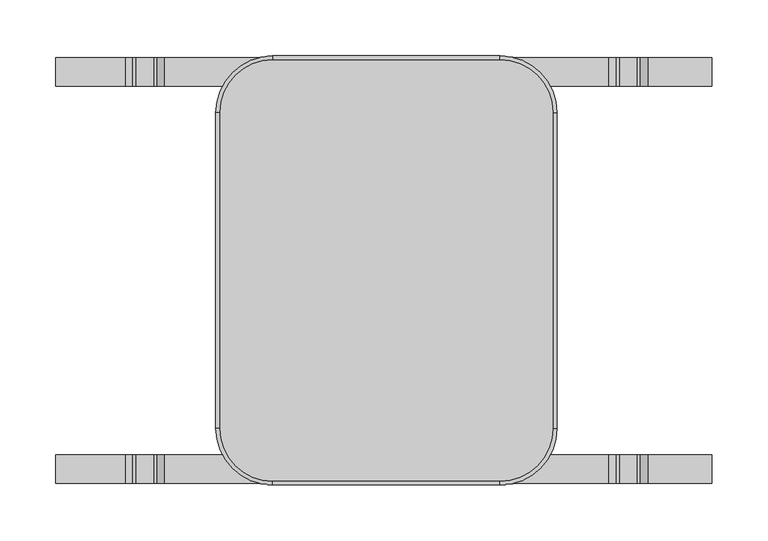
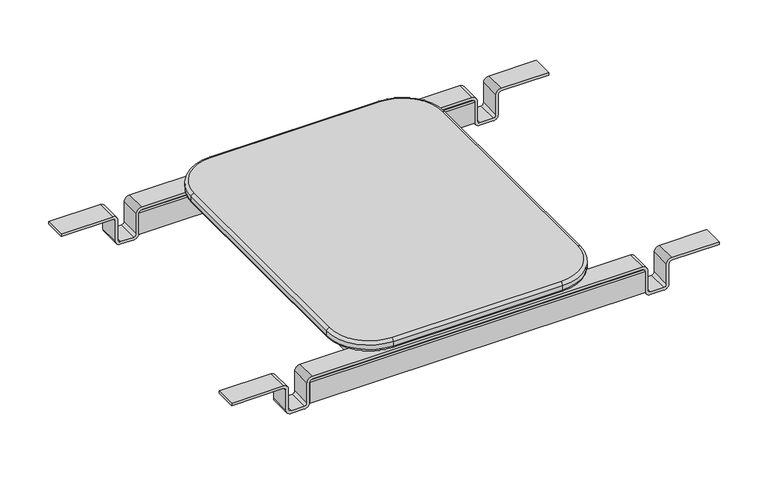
"""IFC4 building model written with IfcOpenShell, lengths in millimetres: furniture geometry, Stance_HC-Spry-Linking_Bracket : SPLT12."""

from ifc_helpers import new_model, si_unit, point, frame, frame_2d, origin, place, context, project, spatial, polyline, circle_curve, ellipse_curve, trimmed, segment, composite_curve, outline, extrude, source, transform, mapped, element, save
from ifc_brep_helpers import plane_surface, cylinder_surface, revolved_surface, advanced_brep


def furniture_b8f35372(model_context):
    return source(origin(), model_context, "Body", "SolidModel", [
        extrude(outline(polyline([(28.0190545, -164.7825), (2.6190545, -164.7825), (2.6190545, 164.7825), (28.0190545, 164.7825), (28.0190545, -164.7825)])), frame((0.0, 0.0, 353.1938169), z_axis=(0.0, 0.0, 1.0), x_axis=(1.0, 0.0, 0.0)), (0.0, 0.0, 1.0), 25.4),
        extrude(outline(polyline([(262.1429788, -164.7825), (236.7429788, -164.7825), (236.7429788, 164.7825), (262.1429788, 164.7825), (262.1429788, -164.7825)])), frame((0.0, 0.0, 353.1938169), z_axis=(0.0, 0.0, 1.0), x_axis=(1.0, 0.0, 0.0)), (0.0, 0.0, 1.0), 25.4),
        advanced_brep(
        [(284.7810167, 140.9523441, 386.8898412), (233.9810167, 191.7523441, 386.8898412), (233.9810167, 188.5773441, 390.0648412), (281.6060167, 140.9523441, 390.0648412), (284.7810167, 140.9523441, 381.2510412), (233.9810167, 191.7523441, 381.2510412), (281.6060167, 140.9523441, 378.0760412), (233.9810167, 188.5773441, 378.0760412), (281.6060167, -140.9523441, 390.0648412), (284.7810167, -140.9523441, 386.8898412), (284.7810167, -140.9523441, 381.2510412), (281.6060167, -140.9523441, 378.0760412), (233.9810167, -188.5773441, 390.0648412), (233.9810167, -191.7523441, 386.8898412), (233.9810167, -191.7523441, 381.2510412), (233.9810167, -188.5773441, 378.0760412), (30.7810167, -188.5773441, 390.0648412), (30.7810167, -191.7523441, 386.8898412), (30.7810167, -191.7523441, 381.2510412), (30.7810167, -188.5773441, 378.0760412), (-16.8439833, -140.9523441, 390.0648412), (-20.0189833, -140.9523441, 386.8898412), (-20.0189833, -140.9523441, 381.2510412), (-16.8439833, -140.9523441, 378.0760412), (-16.8439833, 140.9523441, 390.0648412), (-20.0189833, 140.9523441, 386.8898412), (-20.0189833, 140.9523441, 381.2510412), (-16.8439833, 140.9523441, 378.0760412), (30.7810167, 188.5773441, 390.0648412), (30.7810167, 191.7523441, 386.8898412), (30.7810167, 191.7523441, 381.2510412), (30.7810167, 188.5773441, 378.0760412)],
        [
            (0, 1, circle_curve(frame((233.9810167, 140.9523441, 386.8898412), z_axis=(0.0, 0.0, 1.0), x_axis=(0.0, 1.0, 0.0)), 50.8)),
            (1, 2, circle_curve(frame((233.9810167, 188.5773441, 386.8898412), z_axis=(1.0, 0.0, 0.0), x_axis=(0.0, 1.0, 0.0)), 3.175)),
            (2, 3, circle_curve(frame((233.9810167, 140.9523441, 390.0648412), z_axis=(0.0, 0.0, -1.0), x_axis=(0.0, 1.0, 0.0)), 47.625)),
            (3, 0, circle_curve(frame((281.6060167, 140.9523441, 386.8898412), z_axis=(0.0, 1.0, 0.0), x_axis=(1.0, 0.0, 0.0)), 3.175)),
            (0, 4),
            (4, 5, circle_curve(frame((233.9810167, 140.9523441, 381.2510412), z_axis=(0.0, 0.0, 1.0), x_axis=(0.0, 1.0, 0.0)), 50.8)),
            (5, 1),
            (4, 6, circle_curve(frame((281.6060167, 140.9523441, 381.2510412), z_axis=(0.0, 1.0, 0.0), x_axis=(1.0, 0.0, 0.0)), 3.175)),
            (6, 7, circle_curve(frame((233.9810167, 140.9523441, 378.0760412), z_axis=(0.0, 0.0, 1.0), x_axis=(0.0, 1.0, 0.0)), 47.625)),
            (7, 5, circle_curve(frame((233.9810167, 188.5773441, 381.2510412), z_axis=(1.0, 0.0, 0.0), x_axis=(0.0, 1.0, 0.0)), 3.175)),
            (3, 8),
            (8, 9, circle_curve(frame((281.6060167, -140.9523441, 386.8898412), z_axis=(0.0, 1.0, 0.0), x_axis=(1.0, 0.0, 0.0)), 3.175)),
            (9, 0),
            (9, 10),
            (10, 4),
            (10, 11, circle_curve(frame((281.6060167, -140.9523441, 381.2510412), z_axis=(0.0, 1.0, 0.0), x_axis=(1.0, 0.0, 0.0)), 3.175)),
            (11, 6),
            (8, 12, circle_curve(frame((233.9810167, -140.9523441, 390.0648412), z_axis=(0.0, 0.0, -1.0), x_axis=(1.0, 0.0, 0.0)), 47.625)),
            (12, 13, circle_curve(frame((233.9810167, -188.5773441, 386.8898412), z_axis=(1.0, 0.0, 0.0), x_axis=(0.0, -1.0, 0.0)), 3.175)),
            (13, 9, circle_curve(frame((233.9810167, -140.9523441, 386.8898412), z_axis=(0.0, 0.0, 1.0), x_axis=(1.0, 0.0, 0.0)), 50.8)),
            (13, 14),
            (14, 10, circle_curve(frame((233.9810167, -140.9523441, 381.2510412), z_axis=(0.0, 0.0, 1.0), x_axis=(1.0, 0.0, 0.0)), 50.8)),
            (14, 15, circle_curve(frame((233.9810167, -188.5773441, 381.2510412), z_axis=(1.0, 0.0, 0.0), x_axis=(0.0, -1.0, 0.0)), 3.175)),
            (15, 11, circle_curve(frame((233.9810167, -140.9523441, 378.0760412), z_axis=(0.0, 0.0, 1.0), x_axis=(1.0, 0.0, 0.0)), 47.625)),
            (12, 16),
            (16, 17, circle_curve(frame((30.7810167, -188.5773441, 386.8898412), z_axis=(1.0, 0.0, 0.0), x_axis=(0.0, -1.0, 0.0)), 3.175)),
            (17, 13),
            (17, 18),
            (18, 14),
            (18, 19, circle_curve(frame((30.7810167, -188.5773441, 381.2510412), z_axis=(1.0, 0.0, 0.0), x_axis=(0.0, -1.0, 0.0)), 3.175)),
            (19, 15),
            (16, 20, circle_curve(frame((30.7810167, -140.9523441, 390.0648412), z_axis=(0.0, 0.0, -1.0), x_axis=(0.0, -1.0, 0.0)), 47.625)),
            (20, 21, circle_curve(frame((-16.8439833, -140.9523441, 386.8898412), z_axis=(0.0, -1.0, 0.0), x_axis=(-1.0, 0.0, 0.0)), 3.175)),
            (21, 17, circle_curve(frame((30.7810167, -140.9523441, 386.8898412), z_axis=(0.0, 0.0, 1.0), x_axis=(0.0, -1.0, 0.0)), 50.8)),
            (21, 22),
            (22, 18, circle_curve(frame((30.7810167, -140.9523441, 381.2510412), z_axis=(0.0, 0.0, 1.0), x_axis=(0.0, -1.0, 0.0)), 50.8)),
            (22, 23, circle_curve(frame((-16.8439833, -140.9523441, 381.2510412), z_axis=(0.0, -1.0, 0.0), x_axis=(-1.0, 0.0, 0.0)), 3.175)),
            (23, 19, circle_curve(frame((30.7810167, -140.9523441, 378.0760412), z_axis=(0.0, 0.0, 1.0), x_axis=(0.0, -1.0, 0.0)), 47.625)),
            (20, 24),
            (24, 25, circle_curve(frame((-16.8439833, 140.9523441, 386.8898412), z_axis=(0.0, -1.0, 0.0), x_axis=(-1.0, 0.0, 0.0)), 3.175)),
            (25, 21),
            (25, 26),
            (26, 22),
            (26, 27, circle_curve(frame((-16.8439833, 140.9523441, 381.2510412), z_axis=(0.0, -1.0, 0.0), x_axis=(-1.0, 0.0, 0.0)), 3.175)),
            (27, 23),
            (24, 28, circle_curve(frame((30.7810167, 140.9523441, 390.0648412), z_axis=(0.0, 0.0, -1.0), x_axis=(-1.0, 0.0, 0.0)), 47.625)),
            (28, 29, circle_curve(frame((30.7810167, 188.5773441, 386.8898412), z_axis=(-1.0, 0.0, 0.0), x_axis=(0.0, 1.0, 0.0)), 3.175)),
            (29, 25, circle_curve(frame((30.7810167, 140.9523441, 386.8898412), z_axis=(0.0, 0.0, 1.0), x_axis=(-1.0, 0.0, 0.0)), 50.8)),
            (29, 30),
            (30, 26, circle_curve(frame((30.7810167, 140.9523441, 381.2510412), z_axis=(0.0, 0.0, 1.0), x_axis=(-1.0, 0.0, 0.0)), 50.8)),
            (30, 31, circle_curve(frame((30.7810167, 188.5773441, 381.2510412), z_axis=(-1.0, 0.0, 0.0), x_axis=(0.0, 1.0, 0.0)), 3.175)),
            (31, 27, circle_curve(frame((30.7810167, 140.9523441, 378.0760412), z_axis=(0.0, 0.0, 1.0), x_axis=(-1.0, 0.0, 0.0)), 47.625)),
            (1, 29),
            (28, 2),
            (5, 30),
            (7, 31),
        ],
        [
            revolved_surface(trimmed(ellipse_curve(frame((233.9810167, 188.5773441, 386.8898412), z_axis=(-1.0, 0.0, 0.0), x_axis=(0.0, 1.0, 0.0)), 3.175, 3.175), [point((233.9810167, 188.5773441, 390.0648412))], [point((233.9810167, 191.7523441, 386.8898412))], True, "CARTESIAN"), (233.9810167, 140.9523441, 0.0), (0.0, 0.0, -1.0)),
            cylinder_surface(frame((233.9810167, 140.9523441, 0.0), z_axis=(0.0, 0.0, -1.0), x_axis=(0.0, 1.0, 0.0)), 50.8),
            revolved_surface(trimmed(ellipse_curve(frame((233.9810167, 188.5773441, 381.2510412), z_axis=(-1.0, 0.0, 0.0), x_axis=(0.0, 1.0, 0.0)), 3.175, 3.175), [point((233.9810167, 191.7523441, 381.2510412))], [point((233.9810167, 188.5773441, 378.0760412))], True, "CARTESIAN"), (233.9810167, 140.9523441, 0.0), (0.0, 0.0, -1.0)),
            cylinder_surface(frame((281.6060167, 140.9523441, 386.8898412), z_axis=(0.0, 1.0, 0.0), x_axis=(1.0, 0.0, 0.0)), 3.175),
            plane_surface(frame((284.7810167, 140.9523441, 386.8898412), z_axis=(1.0, 0.0, 0.0), x_axis=(0.0, -1.0, 0.0))),
            cylinder_surface(frame((281.6060167, 140.9523441, 381.2510412), z_axis=(0.0, 1.0, 0.0), x_axis=(1.0, 0.0, 0.0)), 3.175),
            revolved_surface(trimmed(ellipse_curve(frame((281.6060167, -140.9523441, 386.8898412), z_axis=(0.0, 1.0, 0.0), x_axis=(1.0, 0.0, 0.0)), 3.175, 3.175), [point((281.6060167, -140.9523441, 390.0648412))], [point((284.7810167, -140.9523441, 386.8898412))], True, "CARTESIAN"), (233.9810167, -140.9523441, 0.0), (0.0, 0.0, -1.0)),
            cylinder_surface(frame((233.9810167, -140.9523441, 0.0), z_axis=(0.0, 0.0, -1.0), x_axis=(1.0, 0.0, 0.0)), 50.8),
            revolved_surface(trimmed(ellipse_curve(frame((281.6060167, -140.9523441, 381.2510412), z_axis=(0.0, 1.0, 0.0), x_axis=(1.0, 0.0, 0.0)), 3.175, 3.175), [point((284.7810167, -140.9523441, 381.2510412))], [point((281.6060167, -140.9523441, 378.0760412))], True, "CARTESIAN"), (233.9810167, -140.9523441, 0.0), (0.0, 0.0, -1.0)),
            cylinder_surface(frame((233.9810167, -188.5773441, 386.8898412), z_axis=(1.0, 0.0, 0.0), x_axis=(0.0, -1.0, 0.0)), 3.175),
            plane_surface(frame((233.9810167, -191.7523441, 386.8898412), z_axis=(0.0, -1.0, 0.0), x_axis=(-1.0, 0.0, 0.0))),
            cylinder_surface(frame((233.9810167, -188.5773441, 381.2510412), z_axis=(1.0, 0.0, 0.0), x_axis=(0.0, -1.0, 0.0)), 3.175),
            revolved_surface(trimmed(ellipse_curve(frame((30.7810167, -188.5773441, 386.8898412), z_axis=(1.0, 0.0, 0.0), x_axis=(0.0, -1.0, 0.0)), 3.175, 3.175), [point((30.7810167, -188.5773441, 390.0648412))], [point((30.7810167, -191.7523441, 386.8898412))], True, "CARTESIAN"), (30.7810167, -140.9523441, 0.0), (0.0, 0.0, -1.0)),
            cylinder_surface(frame((30.7810167, -140.9523441, 0.0), z_axis=(0.0, 0.0, -1.0), x_axis=(0.0, -1.0, 0.0)), 50.8),
            revolved_surface(trimmed(ellipse_curve(frame((30.7810167, -188.5773441, 381.2510412), z_axis=(1.0, 0.0, 0.0), x_axis=(0.0, -1.0, 0.0)), 3.175, 3.175), [point((30.7810167, -191.7523441, 381.2510412))], [point((30.7810167, -188.5773441, 378.0760412))], True, "CARTESIAN"), (30.7810167, -140.9523441, 0.0), (0.0, 0.0, -1.0)),
            cylinder_surface(frame((-16.8439833, -140.9523441, 386.8898412), z_axis=(0.0, -1.0, 0.0), x_axis=(-1.0, 0.0, 0.0)), 3.175),
            plane_surface(frame((-20.0189833, -140.9523441, 386.8898412), z_axis=(-1.0, 0.0, 0.0), x_axis=(0.0, 1.0, 0.0))),
            cylinder_surface(frame((-16.8439833, -140.9523441, 381.2510412), z_axis=(0.0, -1.0, 0.0), x_axis=(-1.0, 0.0, 0.0)), 3.175),
            revolved_surface(trimmed(ellipse_curve(frame((-16.8439833, 140.9523441, 386.8898412), z_axis=(0.0, -1.0, 0.0), x_axis=(-1.0, 0.0, 0.0)), 3.175, 3.175), [point((-16.8439833, 140.9523441, 390.0648412))], [point((-20.0189833, 140.9523441, 386.8898412))], True, "CARTESIAN"), (30.7810167, 140.9523441, 0.0), (0.0, 0.0, -1.0)),
            cylinder_surface(frame((30.7810167, 140.9523441, 0.0), z_axis=(0.0, 0.0, -1.0), x_axis=(-1.0, 0.0, 0.0)), 50.8),
            revolved_surface(trimmed(ellipse_curve(frame((-16.8439833, 140.9523441, 381.2510412), z_axis=(0.0, -1.0, 0.0), x_axis=(-1.0, 0.0, 0.0)), 3.175, 3.175), [point((-20.0189833, 140.9523441, 381.2510412))], [point((-16.8439833, 140.9523441, 378.0760412))], True, "CARTESIAN"), (30.7810167, 140.9523441, 0.0), (0.0, 0.0, -1.0)),
            cylinder_surface(frame((30.7810167, 188.5773441, 386.8898412), z_axis=(-1.0, 0.0, 0.0), x_axis=(0.0, 1.0, 0.0)), 3.175),
            plane_surface(frame((30.7810167, 191.7523441, 386.8898412), z_axis=(0.0, 1.0, 0.0), x_axis=(1.0, 0.0, 0.0))),
            cylinder_surface(frame((30.7810167, 188.5773441, 381.2510412), z_axis=(-1.0, 0.0, 0.0), x_axis=(0.0, 1.0, 0.0)), 3.175),
            plane_surface(frame((-16.8439833, -140.9523441, 390.0648412), z_axis=(0.0, 0.0, 1.0), x_axis=(0.0, -1.0, 0.0))),
            plane_surface(frame((-16.8439833, -140.9523441, 378.0760412), z_axis=(0.0, 0.0, -1.0), x_axis=(0.0, 1.0, 0.0))),
        ],
        [
            (0, [[1, 2, 3, 4]]),
            (1, [[-1, 5, 6, 7]]),
            (2, [[-6, 8, 9, 10]]),
            (3, [[-4, 11, 12, 13]]),
            (4, [[-5, -13, 14, 15]]),
            (5, [[-8, -15, 16, 17]]),
            (6, [[-12, 18, 19, 20]]),
            (7, [[-14, -20, 21, 22]]),
            (8, [[-16, -22, 23, 24]]),
            (9, [[-19, 25, 26, 27]]),
            (10, [[-21, -27, 28, 29]]),
            (11, [[-23, -29, 30, 31]]),
            (12, [[-26, 32, 33, 34]]),
            (13, [[-28, -34, 35, 36]]),
            (14, [[-30, -36, 37, 38]]),
            (15, [[-33, 39, 40, 41]]),
            (16, [[-35, -41, 42, 43]]),
            (17, [[-37, -43, 44, 45]]),
            (18, [[-40, 46, 47, 48]]),
            (19, [[-42, -48, 49, 50]]),
            (20, [[-44, -50, 51, 52]]),
            (21, [[-2, 53, -47, 54]]),
            (22, [[-7, 55, -49, -53]]),
            (23, [[-10, 56, -51, -55]]),
            (24, [[-3, -54, -46, -39, -32, -25, -18, -11]]),
            (25, [[-9, -17, -24, -31, -38, -45, -52, -56]]),
        ],
    ),
        extrude(outline(polyline([(-69.2314833, 187.0075), (-69.2314833, 190.1825), (333.9935167, 190.1825), (333.9935167, 187.0075), (-69.2314833, 187.0075)])), frame((0.0, 0.0, 341.9015102), z_axis=(0.0, 0.0, 1.0), x_axis=(1.0, 0.0, 0.0)), (0.0, 0.0, 1.0), 26.9875),
        extrude(outline(polyline([(-69.2314833, 164.7825), (-69.2314833, 167.9575), (333.9935167, 167.9575), (333.9935167, 164.7825), (-69.2314833, 164.7825)])), frame((0.0, 0.0, 341.9015102), z_axis=(0.0, 0.0, 1.0), x_axis=(1.0, 0.0, 0.0)), (0.0, 0.0, 1.0), 26.9875),
        extrude(outline(polyline([(-69.2314833, -190.1825), (-69.2314833, -187.0075), (333.9935167, -187.0075), (333.9935167, -190.1825), (-69.2314833, -190.1825)])), frame((0.0, 0.0, 341.9015102), z_axis=(0.0, 0.0, 1.0), x_axis=(1.0, 0.0, 0.0)), (0.0, 0.0, 1.0), 26.9875),
        extrude(outline(polyline([(-69.2314833, -167.9575), (-69.2314833, -164.7825), (333.9935167, -164.7825), (333.9935167, -167.9575), (-69.2314833, -167.9575)])), frame((0.0, 0.0, 341.9015102), z_axis=(0.0, 0.0, 1.0), x_axis=(1.0, 0.0, 0.0)), (0.0, 0.0, 1.0), 26.9875),
        extrude(outline(composite_curve([segment(polyline([(375.2390102, -162.8939833), (372.0640102, -162.8939833), (372.0640102, -100.9814833)]), True, "CONTINUOUS"), segment(trimmed(circle_curve(frame_2d((368.8890102, -100.9814833)), 3.175), [point((372.0640102, -100.9814833))], [point((368.8890102, -97.8064833))], True, "CARTESIAN"), True, "CONTINUOUS"), segment(polyline([(368.8890102, -97.8064833), (343.4890102, -97.8064833)]), True, "CONTINUOUS"), segment(trimmed(circle_curve(frame_2d((343.4890102, -91.4564833)), 6.35), [point((343.4890102, -97.8064833))], [point((337.1390102, -91.4564833))], False, "CARTESIAN"), True, "CONTINUOUS"), segment(polyline([(337.1390102, -91.4564833), (337.1390102, -75.5814833)]), True, "CONTINUOUS"), segment(trimmed(circle_curve(frame_2d((343.4890102, -75.5814833)), 6.35), [point((337.1390102, -75.5814833))], [point((343.4890102, -69.2314833))], False, "CARTESIAN"), True, "CONTINUOUS"), segment(polyline([(343.4890102, -69.2314833), (368.8890102, -69.2314833)]), True, "CONTINUOUS"), segment(trimmed(circle_curve(frame_2d((368.8890102, -66.0564833)), 3.175), [point((368.8890102, -69.2314833))], [point((372.0640102, -66.0564833))], True, "CARTESIAN"), True, "CONTINUOUS"), segment(polyline([(372.0640102, -66.0564833), (372.0640102, 330.8185167)]), True, "CONTINUOUS"), segment(trimmed(circle_curve(frame_2d((368.8890102, 330.8185167)), 3.175), [point((372.0640102, 330.8185167))], [point((368.8890102, 333.9935167))], True, "CARTESIAN"), True, "CONTINUOUS"), segment(polyline([(368.8890102, 333.9935167), (343.4890102, 333.9935167)]), True, "CONTINUOUS"), segment(trimmed(circle_curve(frame_2d((343.4890102, 340.3435167)), 6.35), [point((343.4890102, 333.9935167))], [point((337.1390102, 340.3435167))], False, "CARTESIAN"), True, "CONTINUOUS"), segment(polyline([(337.1390102, 340.3435167), (337.1390102, 356.2185167)]), True, "CONTINUOUS"), segment(trimmed(circle_curve(frame_2d((343.4890102, 356.2185167)), 6.35), [point((337.1390102, 356.2185167))], [point((343.4890102, 362.5685167))], False, "CARTESIAN"), True, "CONTINUOUS"), segment(polyline([(343.4890102, 362.5685167), (368.8890102, 362.5685167)]), True, "CONTINUOUS"), segment(trimmed(circle_curve(frame_2d((368.8890102, 365.7435167)), 3.175), [point((368.8890102, 362.5685167))], [point((372.0640102, 365.7435167))], True, "CARTESIAN"), True, "CONTINUOUS"), segment(polyline([(372.0640102, 365.7435167), (372.0640102, 422.8935167), (375.2390102, 422.8935167), (375.2390102, 365.7435167)]), True, "CONTINUOUS"), segment(trimmed(circle_curve(frame_2d((368.8890102, 365.7435167)), 6.35), [point((375.2390102, 365.7435167))], [point((368.8890102, 359.3935167))], False, "CARTESIAN"), True, "CONTINUOUS"), segment(polyline([(368.8890102, 359.3935167), (343.4890102, 359.3935167)]), True, "CONTINUOUS"), segment(trimmed(circle_curve(frame_2d((343.4890102, 356.2185167)), 3.175), [point((343.4890102, 359.3935167))], [point((340.3140102, 356.2185167))], True, "CARTESIAN"), True, "CONTINUOUS"), segment(polyline([(340.3140102, 356.2185167), (340.3140102, 340.3435167)]), True, "CONTINUOUS"), segment(trimmed(circle_curve(frame_2d((343.4890102, 340.3435167)), 3.175), [point((340.3140102, 340.3435167))], [point((343.4890102, 337.1685167))], True, "CARTESIAN"), True, "CONTINUOUS"), segment(polyline([(343.4890102, 337.1685167), (368.8890102, 337.1685167)]), True, "CONTINUOUS"), segment(trimmed(circle_curve(frame_2d((368.8890102, 330.8185167)), 6.35), [point((368.8890102, 337.1685167))], [point((375.2390102, 330.8185167))], False, "CARTESIAN"), True, "CONTINUOUS"), segment(polyline([(375.2390102, 330.8185167), (375.2390102, -66.0564833)]), True, "CONTINUOUS"), segment(trimmed(circle_curve(frame_2d((368.8890102, -66.0564833)), 6.35), [point((375.2390102, -66.0564833))], [point((368.8890102, -72.4064833))], False, "CARTESIAN"), True, "CONTINUOUS"), segment(polyline([(368.8890102, -72.4064833), (343.4890102, -72.4064833)]), True, "CONTINUOUS"), segment(trimmed(circle_curve(frame_2d((343.4890102, -75.5814833)), 3.175), [point((343.4890102, -72.4064833))], [point((340.3140102, -75.5814833))], True, "CARTESIAN"), True, "CONTINUOUS"), segment(polyline([(340.3140102, -75.5814833), (340.3140102, -91.4564833)]), True, "CONTINUOUS"), segment(trimmed(circle_curve(frame_2d((343.4890102, -91.4564833)), 3.175), [point((340.3140102, -91.4564833))], [point((343.4890102, -94.6314833))], True, "CARTESIAN"), True, "CONTINUOUS"), segment(polyline([(343.4890102, -94.6314833), (368.8890102, -94.6314833)]), True, "CONTINUOUS"), segment(trimmed(circle_curve(frame_2d((368.8890102, -100.9814833)), 6.35), [point((368.8890102, -94.6314833))], [point((375.2390102, -100.9814833))], False, "CARTESIAN"), True, "CONTINUOUS"), segment(polyline([(375.2390102, -100.9814833), (375.2390102, -162.8939833)]), True, "CONTINUOUS")], self_intersect=False)), frame((0.0, 164.7825, 0.0), z_axis=(0.0, 1.0, 0.0), x_axis=(0.0, 0.0, 1.0)), (0.0, 0.0, 1.0), 25.4),
        extrude(outline(composite_curve([segment(polyline([(375.2390102, -162.8939833), (372.0640102, -162.8939833), (372.0640102, -100.9814833)]), True, "CONTINUOUS"), segment(trimmed(circle_curve(frame_2d((368.8890102, -100.9814833)), 3.175), [point((372.0640102, -100.9814833))], [point((368.8890102, -97.8064833))], True, "CARTESIAN"), True, "CONTINUOUS"), segment(polyline([(368.8890102, -97.8064833), (343.4890102, -97.8064833)]), True, "CONTINUOUS"), segment(trimmed(circle_curve(frame_2d((343.4890102, -91.4564833)), 6.35), [point((343.4890102, -97.8064833))], [point((337.1390102, -91.4564833))], False, "CARTESIAN"), True, "CONTINUOUS"), segment(polyline([(337.1390102, -91.4564833), (337.1390102, -75.5814833)]), True, "CONTINUOUS"), segment(trimmed(circle_curve(frame_2d((343.4890102, -75.5814833)), 6.35), [point((337.1390102, -75.5814833))], [point((343.4890102, -69.2314833))], False, "CARTESIAN"), True, "CONTINUOUS"), segment(polyline([(343.4890102, -69.2314833), (368.8890102, -69.2314833)]), True, "CONTINUOUS"), segment(trimmed(circle_curve(frame_2d((368.8890102, -66.0564833)), 3.175), [point((368.8890102, -69.2314833))], [point((372.0640102, -66.0564833))], True, "CARTESIAN"), True, "CONTINUOUS"), segment(polyline([(372.0640102, -66.0564833), (372.0640102, 330.8185167)]), True, "CONTINUOUS"), segment(trimmed(circle_curve(frame_2d((368.8890102, 330.8185167)), 3.175), [point((372.0640102, 330.8185167))], [point((368.8890102, 333.9935167))], True, "CARTESIAN"), True, "CONTINUOUS"), segment(polyline([(368.8890102, 333.9935167), (343.4890102, 333.9935167)]), True, "CONTINUOUS"), segment(trimmed(circle_curve(frame_2d((343.4890102, 340.3435167)), 6.35), [point((343.4890102, 333.9935167))], [point((337.1390102, 340.3435167))], False, "CARTESIAN"), True, "CONTINUOUS"), segment(polyline([(337.1390102, 340.3435167), (337.1390102, 356.2185167)]), True, "CONTINUOUS"), segment(trimmed(circle_curve(frame_2d((343.4890102, 356.2185167)), 6.35), [point((337.1390102, 356.2185167))], [point((343.4890102, 362.5685167))], False, "CARTESIAN"), True, "CONTINUOUS"), segment(polyline([(343.4890102, 362.5685167), (368.8890102, 362.5685167)]), True, "CONTINUOUS"), segment(trimmed(circle_curve(frame_2d((368.8890102, 365.7435167)), 3.175), [point((368.8890102, 362.5685167))], [point((372.0640102, 365.7435167))], True, "CARTESIAN"), True, "CONTINUOUS"), segment(polyline([(372.0640102, 365.7435167), (372.0640102, 422.8935167), (375.2390102, 422.8935167), (375.2390102, 365.7435167)]), True, "CONTINUOUS"), segment(trimmed(circle_curve(frame_2d((368.8890102, 365.7435167)), 6.35), [point((375.2390102, 365.7435167))], [point((368.8890102, 359.3935167))], False, "CARTESIAN"), True, "CONTINUOUS"), segment(polyline([(368.8890102, 359.3935167), (343.4890102, 359.3935167)]), True, "CONTINUOUS"), segment(trimmed(circle_curve(frame_2d((343.4890102, 356.2185167)), 3.175), [point((343.4890102, 359.3935167))], [point((340.3140102, 356.2185167))], True, "CARTESIAN"), True, "CONTINUOUS"), segment(polyline([(340.3140102, 356.2185167), (340.3140102, 340.3435167)]), True, "CONTINUOUS"), segment(trimmed(circle_curve(frame_2d((343.4890102, 340.3435167)), 3.175), [point((340.3140102, 340.3435167))], [point((343.4890102, 337.1685167))], True, "CARTESIAN"), True, "CONTINUOUS"), segment(polyline([(343.4890102, 337.1685167), (368.8890102, 337.1685167)]), True, "CONTINUOUS"), segment(trimmed(circle_curve(frame_2d((368.8890102, 330.8185167)), 6.35), [point((368.8890102, 337.1685167))], [point((375.2390102, 330.8185167))], False, "CARTESIAN"), True, "CONTINUOUS"), segment(polyline([(375.2390102, 330.8185167), (375.2390102, -66.0564833)]), True, "CONTINUOUS"), segment(trimmed(circle_curve(frame_2d((368.8890102, -66.0564833)), 6.35), [point((375.2390102, -66.0564833))], [point((368.8890102, -72.4064833))], False, "CARTESIAN"), True, "CONTINUOUS"), segment(polyline([(368.8890102, -72.4064833), (343.4890102, -72.4064833)]), True, "CONTINUOUS"), segment(trimmed(circle_curve(frame_2d((343.4890102, -75.5814833)), 3.175), [point((343.4890102, -72.4064833))], [point((340.3140102, -75.5814833))], True, "CARTESIAN"), True, "CONTINUOUS"), segment(polyline([(340.3140102, -75.5814833), (340.3140102, -91.4564833)]), True, "CONTINUOUS"), segment(trimmed(circle_curve(frame_2d((343.4890102, -91.4564833)), 3.175), [point((340.3140102, -91.4564833))], [point((343.4890102, -94.6314833))], True, "CARTESIAN"), True, "CONTINUOUS"), segment(polyline([(343.4890102, -94.6314833), (368.8890102, -94.6314833)]), True, "CONTINUOUS"), segment(trimmed(circle_curve(frame_2d((368.8890102, -100.9814833)), 6.35), [point((368.8890102, -94.6314833))], [point((375.2390102, -100.9814833))], False, "CARTESIAN"), True, "CONTINUOUS"), segment(polyline([(375.2390102, -100.9814833), (375.2390102, -162.8939833)]), True, "CONTINUOUS")], self_intersect=False)), frame((0.0, -190.1825, 0.0), z_axis=(0.0, 1.0, 0.0), x_axis=(0.0, 0.0, 1.0)), (0.0, 0.0, 1.0), 25.4),
    ])


if __name__ == "__main__":
    model = new_model("IFC4")
    model_context = context("Model", 3, world=origin())
    ifc_project = project(units=[si_unit("LENGTHUNIT", "METRE", prefix="MILLI")], contexts=[model_context])
    site = spatial("IfcSite", under=ifc_project)
    building = spatial("IfcBuilding", under=site)
    placement = place(None, origin())
    furniture_shape = furniture_b8f35372(model_context)
    element("IfcFurniture", 1, ObjectType="Stance_HC-Spry-Linking_Bracket : SPLT12", at=placement, inside=building, context=model_context, shape_type="MappedRepresentation", body=[
        mapped(furniture_shape, transform((0.0, 0.0, 0.0), x_axis=(1.0, 0.0, 0.0), y_axis=(0.0, 1.0, 0.0), z_axis=(0.0, 0.0, 1.0))),
    ])
    save(model, "model.ifc")
